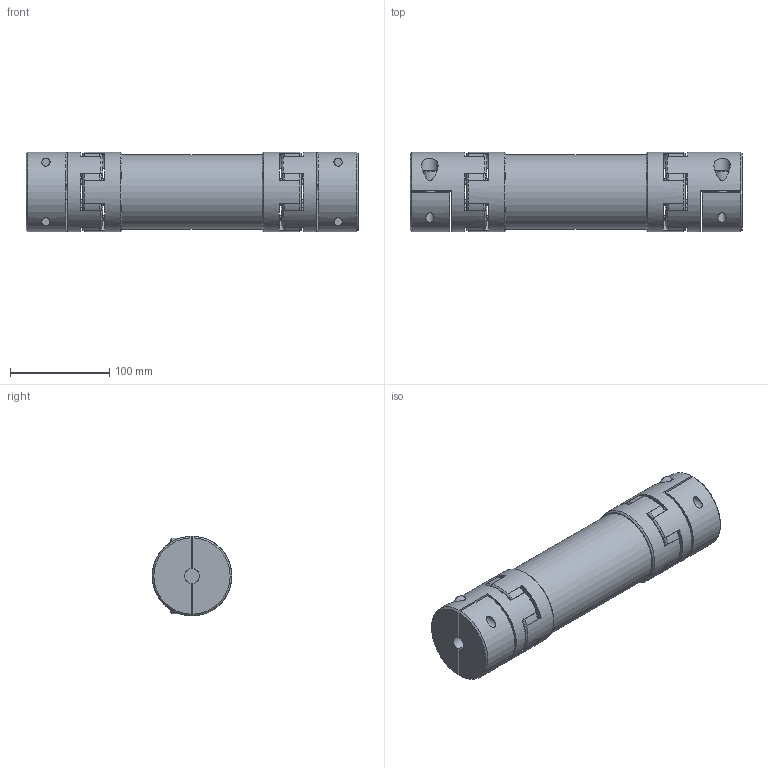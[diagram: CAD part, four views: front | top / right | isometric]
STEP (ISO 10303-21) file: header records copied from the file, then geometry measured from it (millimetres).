
FILE_DESCRIPTION(/* description */ ('Zwischenwellenkupplung AL38'),/* implementation_level */ '2;1');
FILE_NAME(/* name */ 'ALRP38-L250-15-KL-15-KL',/* time_stamp */ '2024-01-05T15:38:24+01:00',/* author */ ('License CC BY-ND 4.0'),/* organization */ ('CADENAS'),/* preprocessor_version */ 'ST-DEVELOPER v20',/* originating_system */ 'Autodesk Inventor 2024',/* authorisation */ ' ');
FILE_SCHEMA (('AUTOMOTIVE_DESIGN { 1 0 10303 214 3 1 1 }'));
Length unit declared in the file: millimetre
Products named in the file (1): Zwischenwellenkupplung AL38
Bounding box: 334 x 80 x 80 mm (x, y, z)
Volume: 1154619 mm3; surface area: 246912.7 mm2
Topology: 13 solids, 13 shells, 416 faces, 1000 edges, 650 vertices
Faces by surface type: cylinder 184, plane 126, cone 96, torus 10
Full cylindrical faces by diameter (mm): 3.692 x24, 5.908 x4, 8.376 x4, 10 x4, 11 x4, 15 x4, 16 x4, 16.6 x4, 40 x4, 65 x3, 65.2 x4, 75 x1, 80 x4
Entity records: 12831 total; most frequent: CARTESIAN_POINT 2812, DIRECTION 2236, ORIENTED_EDGE 2000, EDGE_CURVE 1000, AXIS2_PLACEMENT_3D 970, VERTEX_POINT 650, CIRCLE 552, EDGE_LOOP 482
